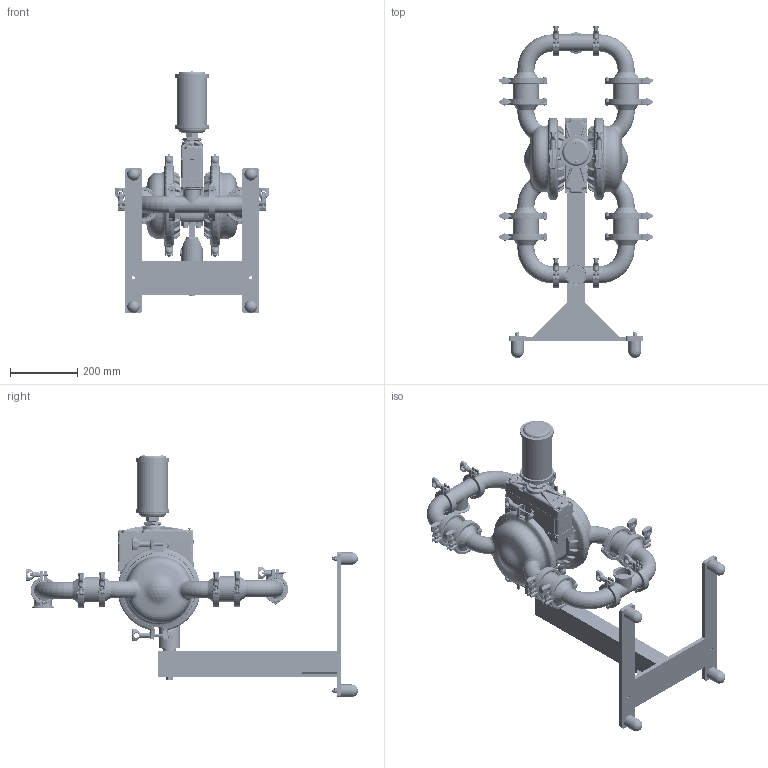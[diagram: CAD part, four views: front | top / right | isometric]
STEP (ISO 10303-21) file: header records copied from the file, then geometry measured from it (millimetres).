
FILE_DESCRIPTION (( 'STEP AP203' ), '1' );
FILE_NAME ('ps8_ss_saniflo_hs_ball_swivel.STEP', '2022-06-23T04:53:21', ( '' ), ( '' ), 'SwSTEP 2.0', 'SolidWorks 2019', '' );
FILE_SCHEMA (( 'CONFIG_CONTROL_DESIGN' ));
Products named in the file (1): ps8_ss_saniflo_hs_ball_swivel
Bounding box: 460.1 x 987.98 x 721.37 mm (x, y, z)
Volume: 19206649.3 mm3; surface area: 1588264.4 mm2
Topology: 1 solids, 1 shells, 10127 faces, 25628 edges, 15608 vertices
Faces by surface type: plane 3929, cylinder 2093, bspline 1893, torus 1300, cone 594, sphere 318
Entity records: 573348 total; most frequent: CARTESIAN_POINT 345056, ORIENTED_EDGE 50800, DIRECTION 43613, EDGE_CURVE 25400, AXIS2_PLACEMENT_3D 15708, VERTEX_POINT 15552, VECTOR 12197, LINE 12197
